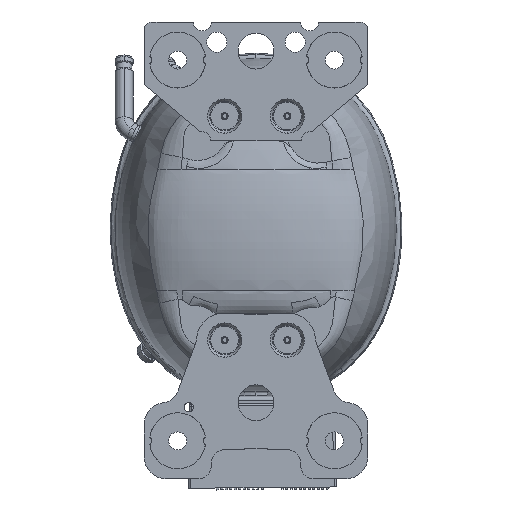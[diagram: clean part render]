
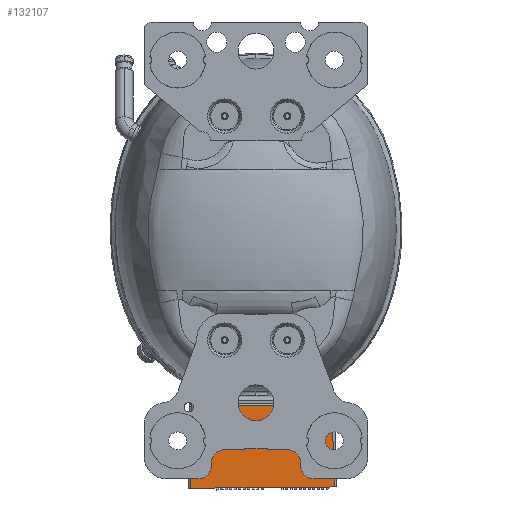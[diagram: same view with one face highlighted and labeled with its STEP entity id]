
A CAD part, front view. The second image highlights one B-rep face of the part: STEP entity #132107.
In plain terms, the highlighted planar face has unit normal (0, -1, 0.009) as drawn and (1, 0, -0.017) by its records, which use the part's own axes.
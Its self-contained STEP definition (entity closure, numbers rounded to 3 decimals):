
#124372=DIRECTION('',(0.,-1.,0.));
#124373=VECTOR('',#124372,64.);
#124374=CARTESIAN_POINT('',(43.599,32.,
0.));
#124375=LINE('',#124374,#124373);
#124376=DIRECTION('',(0.017,0.017,1.));
#124377=VECTOR('',#124376,36.529);
#124378=CARTESIAN_POINT('',(42.961,31.363,
-36.517));
#124379=LINE('',#124378,#124377);
#124380=DIRECTION('',(-0.017,0.017,-1.));
#124381=VECTOR('',#124380,36.529);
#124382=CARTESIAN_POINT('',(43.599,-32.,
0.));
#124383=LINE('',#124382,#124381);
#124384=DIRECTION('',(0.,-1.,0.));
#124385=VECTOR('',#124384,62.725);
#124386=CARTESIAN_POINT('',(42.961,31.363,
-36.517));
#124387=LINE('',#124386,#124385);
#128363=CARTESIAN_POINT('',(43.599,32.,
0.));
#128364=CARTESIAN_POINT('',(43.599,-32.,
0.));
#128365=VERTEX_POINT('',#128363);
#128366=VERTEX_POINT('',#128364);
#128367=CARTESIAN_POINT('',(42.961,-31.363,
-36.517));
#128368=VERTEX_POINT('',#128367);
#128369=CARTESIAN_POINT('',(42.961,31.363,
-36.517));
#128370=VERTEX_POINT('',#128369);
#132095=CARTESIAN_POINT('',(42.942,34.846,-37.6));
#132096=DIRECTION('',(1.,0.,-0.017));
#132097=DIRECTION('',(0.017,0.,1.));
#132098=AXIS2_PLACEMENT_3D('',#132095,#132096,#132097);
#132099=PLANE('',#132098);
#132100=ORIENTED_EDGE('',*,*,#131109,.F.);
#132101=ORIENTED_EDGE('',*,*,#132087,.F.);
#132103=ORIENTED_EDGE('',*,*,#132102,.T.);
#132104=ORIENTED_EDGE('',*,*,#131772,.F.);
#132105=EDGE_LOOP('',(#132100,#132101,#132103,#132104));
#132106=FACE_OUTER_BOUND('',#132105,.F.);
#132107=ADVANCED_FACE('',(#132106),#132099,.T.);
#131109=EDGE_CURVE('',#128365,#128366,#124375,.T.);
#131772=EDGE_CURVE('',#128366,#128368,#124383,.T.);
#132087=EDGE_CURVE('',#128370,#128365,#124379,.T.);
#132102=EDGE_CURVE('',#128370,#128368,#124387,.T.);
